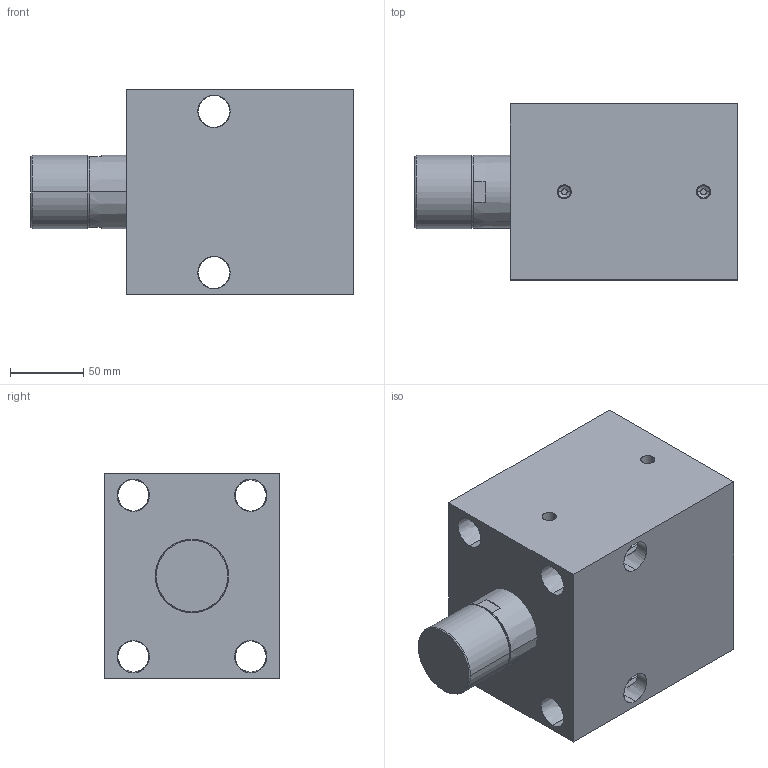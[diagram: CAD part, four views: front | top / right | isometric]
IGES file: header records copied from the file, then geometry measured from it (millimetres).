
Start section: SolidWorks IGES file using analytic representation for surfaces
Global section: file name: C:\Documents and Settings\rajib\Desktop\Rajib\BLOCK CYLINDER HYDRAULIC\0801-0806\IGES 0801-0808\0801.IGS; native system: SolidWorks 2007; preprocessor: SolidWorks 2007; author: rajib; date: 110121.163743; units: millimetre
Bounding box: 220 x 120 x 140 mm (x, y, z)
Surface area: 187173.5 mm2 (no closed solid volume)
Topology: 0 solids, 0 shells, 76 faces, 1936 edges, 1936 vertices
Faces by surface type: revolution 54, bspline 22
